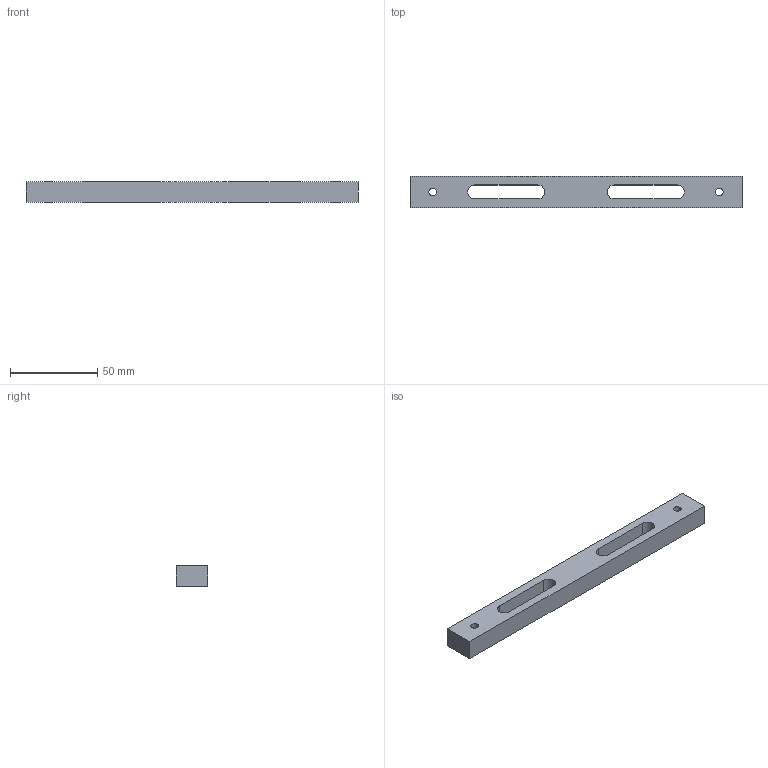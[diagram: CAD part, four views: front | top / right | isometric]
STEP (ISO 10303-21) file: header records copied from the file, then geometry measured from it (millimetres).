
FILE_DESCRIPTION(('Open CASCADE Model'),'2;1');
FILE_NAME('Open CASCADE Shape Model','2026-10-02T16:08:57',('Author'),( 'Open CASCADE'),'Open CASCADE STEP processor 7.8','Open CASCADE 7.8' ,'Unknown');
FILE_SCHEMA(('AUTOMOTIVE_DESIGN { 1 0 10303 214 1 1 1 1 }'));
Length unit declared in the file: millimetre
Products named in the file (1): Open CASCADE STEP translator 7.8 6
Bounding box: 190 x 18 x 12 mm (x, y, z)
Volume: 32556.7 mm3; surface area: 13081.1 mm2
Topology: 1 solids, 1 shells, 16 faces, 42 edges, 28 vertices
Faces by surface type: plane 10, cylinder 6
Full cylindrical faces by diameter (mm): 4.4 x2
Entity records: 1050 total; most frequent: CARTESIAN_POINT 191, DIRECTION 152, ORIENTED_EDGE 84, PCURVE 84, DEFINITIONAL_REPRESENTATION 84, LINE 82, VECTOR 82, EDGE_CURVE 42
